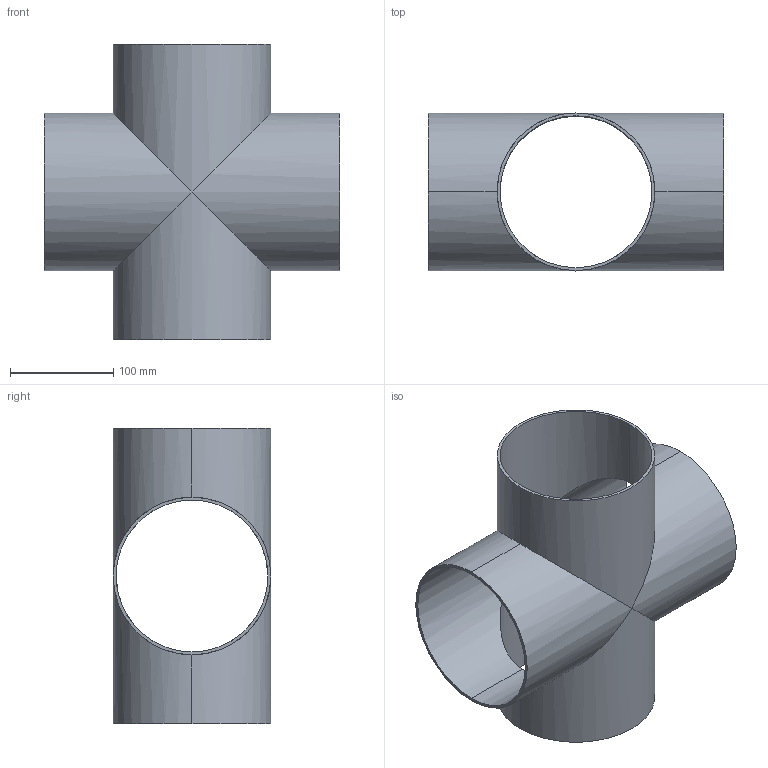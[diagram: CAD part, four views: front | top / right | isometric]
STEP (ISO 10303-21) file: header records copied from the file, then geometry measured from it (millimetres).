
FILE_DESCRIPTION (( 'STEP AP214' ), '1' );
FILE_NAME ('TE9WWWW6L6.0-...STEP', '2016-05-22T04:58:18', ( 'eran' ), ( '' ), 'SwSTEP 2.0', 'SolidWorks 2016', '' );
FILE_SCHEMA (( 'AUTOMOTIVE_DESIGN' ));
Length unit declared in the file: millimetre
Products named in the file (1): TE9WWWW6L6.0-..
Bounding box: 285.75 x 152.4 x 285.75 mm (x, y, z)
Volume: 495808.7 mm3; surface area: 363330.6 mm2
Topology: 1 solids, 1 shells, 20 faces, 48 edges, 28 vertices
Faces by surface type: cylinder 16, plane 4
Entity records: 618 total; most frequent: CARTESIAN_POINT 145, ORIENTED_EDGE 96, DIRECTION 90, EDGE_CURVE 48, AXIS2_PLACEMENT_3D 37, VERTEX_POINT 28, EDGE_LOOP 24, FACE_OUTER_BOUND 20
